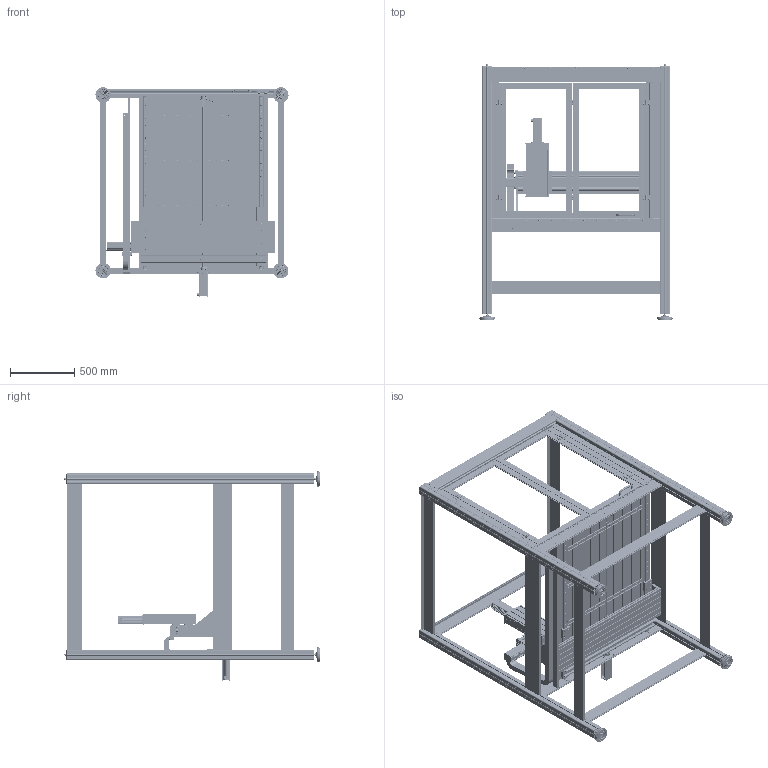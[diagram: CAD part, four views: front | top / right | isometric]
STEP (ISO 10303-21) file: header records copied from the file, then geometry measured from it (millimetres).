
FILE_DESCRIPTION (( 'STEP AP203' ), '1' );
FILE_NAME ('_-_X-Y-Z Flachbetteinheit FB2 - ArtNr 246203 2067M - ArtNr 248500 0067 - ArtNr 248200 0067 - ArtNr 230514M.step', '2015-04-23T06:01:38', ( '' ), ( '' ), 'SwSTEP 2.0', 'SolidWorks 2014', '' );
FILE_SCHEMA (( 'CONFIG_CONTROL_DESIGN' ));
Length unit declared in the file: millimetre
Products named in the file (8): Untergestell 1000x1350_f〉 Umhausung; Untergestell Baugruppe_1000x1350 - f〉 Umhausung; Umhausung 1000x1350; Umhausung Baugruppe_1000x1350; _-_X-Y-Z Flachbetteinheit FB2 - ArtNr 246203 2067M - ArtNr 248500 0067 - ArtNr 248200 0067 - ArtNr 230514M; TE0179 - F黨rungsschlitten_F乭rungsschlitten f乺 KG-Mutter Typ25; Z-Achse FB2 Hub 160mm; X-Y-Achse f黵 Verfagrweg 780
Assembly tree (8 placements, depth 3):
  _-_X-Y-Z Flachbetteinheit FB2 - ArtNr 246203 2067M - ArtNr 248500 0067 - ArtNr 248200 0067 - ArtNr 230514M
    TE0179 - F黨rungsschlitten_F乭rungsschlitten f乺 KG-Mutter Typ25  x2
    Z-Achse FB2 Hub 160mm
    X-Y-Achse f黵 Verfagrweg 780
    Untergestell Baugruppe_1000x1350 - f〉 Umhausung
      Untergestell 1000x1350_f〉 Umhausung
    Umhausung Baugruppe_1000x1350
      Umhausung 1000x1350
Bounding box: 1499.73 x 1989.05 x 1628.16 mm (x, y, z)
Volume: 69525007.4 mm3; surface area: 46557713.8 mm2
Topology: 677 solids, 677 shells, 23638 faces, 61950 edges, 40007 vertices
Faces by surface type: plane 14252, cylinder 6995, cone 1374, torus 800, sphere 207, bspline 10
Full cylindrical faces by diameter (mm): 1.5 x12, 2 x3, 2.33 x2, 2.4 x2, 2.5 x44, 3 x16, 3.2 x14, 3.3 x8, 3.7 x1, 4 x59, 4.2 x16, 4.3 x8, 4.5 x24, 4.6 x2, 4.8 x8, 4.819 x7, 5 x100, 5.2 x62, 5.5 x25, 6 x332, 6.1 x12, 6.35 x2, 6.4 x11, 6.5 x94, 6.6 x91, 7 x281, 7.2 x3, 7.5 x42, 8 x35, 8.4 x4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
Entity records: 749078 total; most frequent: CARTESIAN_POINT 194680, DIRECTION 111849, ORIENTED_EDGE 111296, EDGE_CURVE 55648, AXIS2_PLACEMENT_3D 39011, VERTEX_POINT 38176, VECTOR 33827, LINE 33827
